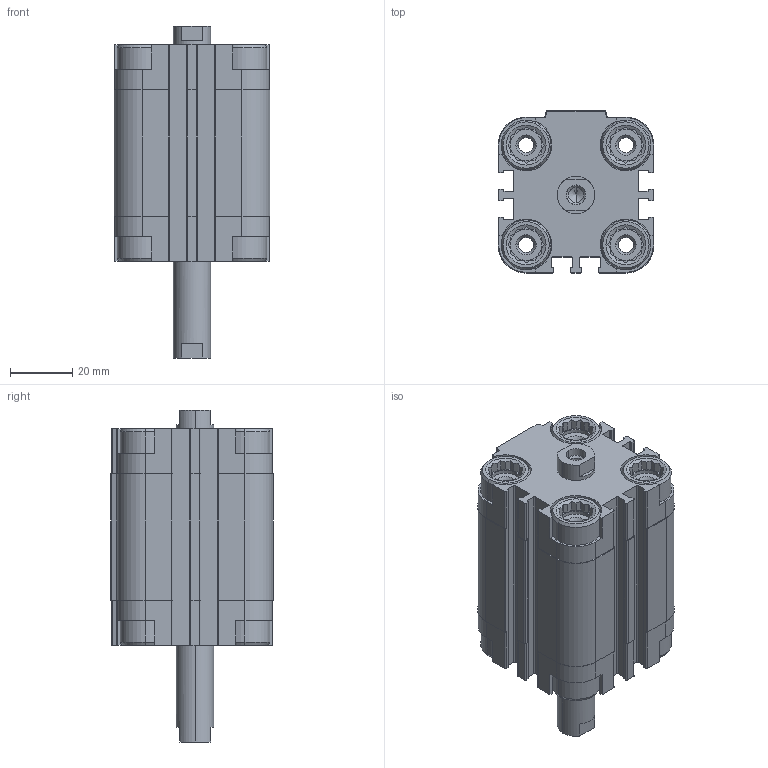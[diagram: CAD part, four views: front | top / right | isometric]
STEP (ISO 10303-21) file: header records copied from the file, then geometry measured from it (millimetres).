
FILE_DESCRIPTION (( 'STEP AP203' ), '1' );
FILE_NAME ('CDVU32-25F-P.STEP', '2020-07-24T18:12:27', ( '' ), ( '' ), 'SwSTEP 2.0', 'SolidWorks 2019', '' );
FILE_SCHEMA (( 'CONFIG_CONTROL_DESIGN' ));
Length unit declared in the file: millimetre
Products named in the file (1): CDVU32-25F-P
Bounding box: 50 x 52 x 106.5 mm (x, y, z)
Volume: 127851.5 mm3; surface area: 45369.3 mm2
Topology: 2 solids, 2 shells, 722 faces, 1928 edges, 1244 vertices
Faces by surface type: plane 422, cylinder 236, cone 64
Entity records: 22623 total; most frequent: CARTESIAN_POINT 4463, ORIENTED_EDGE 3840, DIRECTION 3710, EDGE_CURVE 1920, AXIS2_PLACEMENT_3D 1259, VERTEX_POINT 1244, LINE 1192, VECTOR 1192
